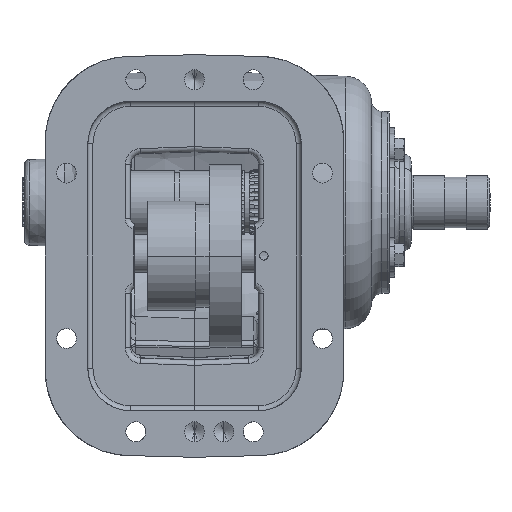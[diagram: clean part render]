
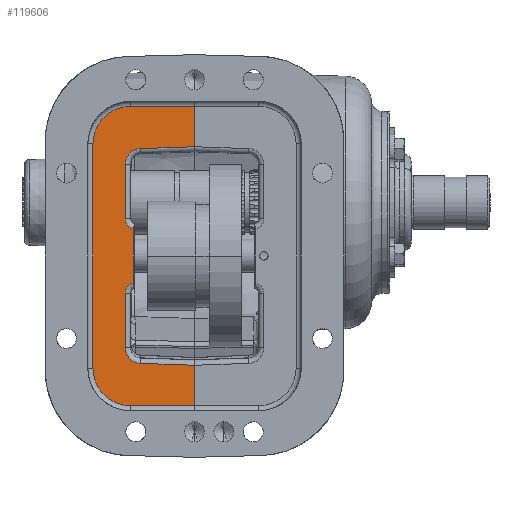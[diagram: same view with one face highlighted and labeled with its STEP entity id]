
A CAD part, front view. The second image highlights one B-rep face of the part: STEP entity #119606.
In plain terms, the highlighted planar face has unit normal (0, -1, 0).
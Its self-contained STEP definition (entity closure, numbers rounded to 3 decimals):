
#8965 = CARTESIAN_POINT ( 'NONE',  ( -31.951, -151.106, -126.172 ) ) ;
#8969 = CARTESIAN_POINT ( 'NONE',  ( 0.127, -151.106, -127.292 ) ) ;
#8971 = CARTESIAN_POINT ( 'NONE',  ( -41.021, -151.106, -116.779 ) ) ;
#8973 = CARTESIAN_POINT ( 'NONE',  ( -41.021, -151.106, -84.428 ) ) ;
#8990 = CARTESIAN_POINT ( 'NONE',  ( -36.195, -151.106, -78.466 ) ) ;
#8996 = CARTESIAN_POINT ( 'NONE',  ( -36.195, -151.106, -46.066 ) ) ;
#10473 = LINE ( 'NONE', #27801, #10477 ) ;
#10477 = VECTOR ( 'NONE', #27798, 1000. ) ;
#10481 = CIRCLE ( 'NONE', #129291, 9.398 ) ;
#10487 = LINE ( 'NONE', #27832, #10493 ) ;
#10493 = VECTOR ( 'NONE', #27830, 1000. ) ;
#10498 = CIRCLE ( 'NONE', #129309, 6.096 ) ;
#10506 = LINE ( 'NONE', #27870, #10509 ) ;
#10509 = VECTOR ( 'NONE', #27866, 1000. ) ;
#10513 = CIRCLE ( 'NONE', #129337, 6.096 ) ;
#10519 = LINE ( 'NONE', #27907, #10525 ) ;
#10525 = VECTOR ( 'NONE', #27905, 1000. ) ;
#10529 = CIRCLE ( 'NONE', #129353, 9.398 ) ;
#10534 = LINE ( 'NONE', #27931, #10541 ) ;
#10541 = VECTOR ( 'NONE', #27944, 1000. ) ;
#11099 = DIRECTION ( 'NONE',  ( 1., 0., 0. ) ) ;
#11100 = CARTESIAN_POINT ( 'NONE',  ( -37.973, -151.106, -128.941 ) ) ;
#11101 = DIRECTION ( 'NONE',  ( 0., -1., 0. ) ) ;
#11102 = DIRECTION ( 'NONE',  ( 0., 0., 1. ) ) ;
#11103 = CARTESIAN_POINT ( 'NONE',  ( 0.127, -151.106, -151.293 ) ) ;
#11110 = CARTESIAN_POINT ( 'NONE',  ( -60.325, -151.106, -128.941 ) ) ;
#11116 = DIRECTION ( 'NONE',  ( 0., 0., -1. ) ) ;
#11129 = CARTESIAN_POINT ( 'NONE',  ( -37.973, -151.106, 4.409 ) ) ;
#11130 = DIRECTION ( 'NONE',  ( 0., -1., 0. ) ) ;
#11131 = DIRECTION ( 'NONE',  ( 0., 0., 1. ) ) ;
#11142 = CARTESIAN_POINT ( 'NONE',  ( -37.973, -151.106, 26.761 ) ) ;
#11148 = DIRECTION ( 'NONE',  ( -1., 0., 0. ) ) ;
#12042 = CIRCLE ( 'NONE', #129427, 22.352 ) ;
#12047 = LINE ( 'NONE', #11103, #12049 ) ;
#12049 = VECTOR ( 'NONE', #11099, 1000. ) ;
#12056 = LINE ( 'NONE', #11110, #12064 ) ;
#12064 = VECTOR ( 'NONE', #11116, 1000. ) ;
#12077 = CIRCLE ( 'NONE', #129441, 22.352 ) ;
#12090 = LINE ( 'NONE', #11142, #12099 ) ;
#12099 = VECTOR ( 'NONE', #11148, 1000. ) ;
#13541 = LINE ( 'NONE', #113356, #13548 ) ;
#13545 = LINE ( 'NONE', #113358, #13554 ) ;
#13548 = VECTOR ( 'NONE', #113357, 1000. ) ;
#13554 = VECTOR ( 'NONE', #113359, 1000. ) ;
#19468 = CARTESIAN_POINT ( 'NONE',  ( -88.773, -151.106, 55.209 ) ) ;
#19475 = PLANE ( 'NONE',  #124255 ) ;
#19477 = DIRECTION ( 'NONE',  ( 0., 1., 0. ) ) ;
#19478 = DIRECTION ( 'NONE',  ( 0., 0., 1. ) ) ;
#27798 = DIRECTION ( 'NONE',  ( -0.999, 0., 0.035 ) ) ;
#27801 = CARTESIAN_POINT ( 'NONE',  ( -31.951, -151.106, -126.172 ) ) ;
#27819 = CARTESIAN_POINT ( 'NONE',  ( -31.623, -151.106, -116.779 ) ) ;
#27820 = DIRECTION ( 'NONE',  ( 0., 1., 0. ) ) ;
#27821 = DIRECTION ( 'NONE',  ( 0., 0., 1. ) ) ;
#27830 = DIRECTION ( 'NONE',  ( 0., 0., 1. ) ) ;
#27832 = CARTESIAN_POINT ( 'NONE',  ( -41.021, -151.106, -84.428 ) ) ;
#27853 = CARTESIAN_POINT ( 'NONE',  ( -34.925, -151.106, -84.428 ) ) ;
#27854 = DIRECTION ( 'NONE',  ( 0., 1., 0. ) ) ;
#27855 = DIRECTION ( 'NONE',  ( 0., 0., 1. ) ) ;
#27866 = DIRECTION ( 'NONE',  ( 0., 0., 1. ) ) ;
#27870 = CARTESIAN_POINT ( 'NONE',  ( -36.195, -151.106, -46.066 ) ) ;
#27897 = CARTESIAN_POINT ( 'NONE',  ( -34.925, -151.106, -40.104 ) ) ;
#27898 = DIRECTION ( 'NONE',  ( 0., 1., 0. ) ) ;
#27899 = DIRECTION ( 'NONE',  ( 0., 0., 1. ) ) ;
#27905 = DIRECTION ( 'NONE',  ( 0., 0., 1. ) ) ;
#27907 = CARTESIAN_POINT ( 'NONE',  ( -41.021, -151.106, -7.753 ) ) ;
#27927 = CARTESIAN_POINT ( 'NONE',  ( -31.623, -151.106, -7.753 ) ) ;
#27928 = DIRECTION ( 'NONE',  ( 0., 1., 0. ) ) ;
#27929 = DIRECTION ( 'NONE',  ( 0., 0., 1. ) ) ;
#27931 = CARTESIAN_POINT ( 'NONE',  ( 0.021, -151.106, 2.756 ) ) ;
#27944 = DIRECTION ( 'NONE',  ( 0.999, 0., 0.035 ) ) ;
#42385 = EDGE_LOOP ( 'NONE', ( #49415, #49414, #49413, #49412, #49411, #49410, #49409, #49408, #49407, #49406, #49405, #49404, #49403, #49402, #49401, #49400 ) ) ;
#49400 = ORIENTED_EDGE ( 'NONE', *, *, #121531, .T. ) ;
#49401 = ORIENTED_EDGE ( 'NONE', *, *, #121529, .T. ) ;
#49402 = ORIENTED_EDGE ( 'NONE', *, *, #121535, .T. ) ;
#49403 = ORIENTED_EDGE ( 'NONE', *, *, #121542, .T. ) ;
#49404 = ORIENTED_EDGE ( 'NONE', *, *, #121548, .T. ) ;
#49405 = ORIENTED_EDGE ( 'NONE', *, *, #122345, .F. ) ;
#49406 = ORIENTED_EDGE ( 'NONE', *, *, #121464, .T. ) ;
#49407 = ORIENTED_EDGE ( 'NONE', *, *, #121457, .T. ) ;
#49408 = ORIENTED_EDGE ( 'NONE', *, *, #121450, .T. ) ;
#49409 = ORIENTED_EDGE ( 'NONE', *, *, #121445, .T. ) ;
#49410 = ORIENTED_EDGE ( 'NONE', *, *, #121437, .T. ) ;
#49411 = ORIENTED_EDGE ( 'NONE', *, *, #121429, .T. ) ;
#49412 = ORIENTED_EDGE ( 'NONE', *, *, #121423, .T. ) ;
#49413 = ORIENTED_EDGE ( 'NONE', *, *, #121417, .T. ) ;
#49414 = ORIENTED_EDGE ( 'NONE', *, *, #121411, .T. ) ;
#49415 = ORIENTED_EDGE ( 'NONE', *, *, #122344, .F. ) ;
#66593 = VERTEX_POINT ( 'NONE', #8965 ) ;
#66597 = VERTEX_POINT ( 'NONE', #8969 ) ;
#66599 = VERTEX_POINT ( 'NONE', #8971 ) ;
#66601 = VERTEX_POINT ( 'NONE', #8973 ) ;
#66619 = VERTEX_POINT ( 'NONE', #8990 ) ;
#66625 = VERTEX_POINT ( 'NONE', #8996 ) ;
#66629 = VERTEX_POINT ( 'NONE', #101671 ) ;
#66636 = VERTEX_POINT ( 'NONE', #101674 ) ;
#66638 = VERTEX_POINT ( 'NONE', #101675 ) ;
#66655 = VERTEX_POINT ( 'NONE', #101683 ) ;
#66707 = VERTEX_POINT ( 'NONE', #101707 ) ;
#66710 = VERTEX_POINT ( 'NONE', #101708 ) ;
#66714 = VERTEX_POINT ( 'NONE', #101710 ) ;
#66720 = VERTEX_POINT ( 'NONE', #101713 ) ;
#66729 = VERTEX_POINT ( 'NONE', #101717 ) ;
#66738 = VERTEX_POINT ( 'NONE', #101721 ) ;
#94383 = FACE_OUTER_BOUND ( 'NONE', #42385, .T. ) ;
#101671 = CARTESIAN_POINT ( 'NONE',  ( -41.021, -151.106, -7.753 ) ) ;
#101674 = CARTESIAN_POINT ( 'NONE',  ( -41.021, -151.106, -40.104 ) ) ;
#101675 = CARTESIAN_POINT ( 'NONE',  ( -31.951, -151.106, 1.64 ) ) ;
#101683 = CARTESIAN_POINT ( 'NONE',  ( 0.127, -151.106, 2.76 ) ) ;
#101707 = CARTESIAN_POINT ( 'NONE',  ( -60.325, -151.106, -128.941 ) ) ;
#101708 = CARTESIAN_POINT ( 'NONE',  ( 0.127, -151.106, -151.293 ) ) ;
#101710 = CARTESIAN_POINT ( 'NONE',  ( -37.973, -151.106, -151.293 ) ) ;
#101713 = CARTESIAN_POINT ( 'NONE',  ( -60.325, -151.106, 4.409 ) ) ;
#101717 = CARTESIAN_POINT ( 'NONE',  ( -37.973, -151.106, 26.761 ) ) ;
#101721 = CARTESIAN_POINT ( 'NONE',  ( 0.127, -151.106, 26.761 ) ) ;
#113356 = CARTESIAN_POINT ( 'NONE',  ( 0.127, -151.106, 55.209 ) ) ;
#113357 = DIRECTION ( 'NONE',  ( 0., 0., -1. ) ) ;
#113358 = CARTESIAN_POINT ( 'NONE',  ( 0.127, -151.106, 55.209 ) ) ;
#113359 = DIRECTION ( 'NONE',  ( 0., 0., -1. ) ) ;
#119606 = ADVANCED_FACE ( 'NONE', ( #94383 ), #19475, .F. ) ;
#121411 = EDGE_CURVE ( 'NONE', #66597, #66593, #10473, .T. ) ;
#121417 = EDGE_CURVE ( 'NONE', #66593, #66599, #10481, .T. ) ;
#121423 = EDGE_CURVE ( 'NONE', #66599, #66601, #10487, .T. ) ;
#121429 = EDGE_CURVE ( 'NONE', #66601, #66619, #10498, .T. ) ;
#121437 = EDGE_CURVE ( 'NONE', #66619, #66625, #10506, .T. ) ;
#121445 = EDGE_CURVE ( 'NONE', #66625, #66636, #10513, .T. ) ;
#121450 = EDGE_CURVE ( 'NONE', #66636, #66629, #10519, .T. ) ;
#121457 = EDGE_CURVE ( 'NONE', #66629, #66638, #10529, .T. ) ;
#121464 = EDGE_CURVE ( 'NONE', #66638, #66655, #10534, .T. ) ;
#121529 = EDGE_CURVE ( 'NONE', #66707, #66714, #12042, .T. ) ;
#121531 = EDGE_CURVE ( 'NONE', #66714, #66710, #12047, .T. ) ;
#121535 = EDGE_CURVE ( 'NONE', #66720, #66707, #12056, .T. ) ;
#121542 = EDGE_CURVE ( 'NONE', #66729, #66720, #12077, .T. ) ;
#121548 = EDGE_CURVE ( 'NONE', #66738, #66729, #12090, .T. ) ;
#122344 = EDGE_CURVE ( 'NONE', #66597, #66710, #13541, .T. ) ;
#122345 = EDGE_CURVE ( 'NONE', #66738, #66655, #13545, .T. ) ;
#124255 = AXIS2_PLACEMENT_3D ( 'NONE', #19468, #19477, #19478 ) ;
#129291 = AXIS2_PLACEMENT_3D ( 'NONE', #27819, #27820, #27821 ) ;
#129309 = AXIS2_PLACEMENT_3D ( 'NONE', #27853, #27854, #27855 ) ;
#129337 = AXIS2_PLACEMENT_3D ( 'NONE', #27897, #27898, #27899 ) ;
#129353 = AXIS2_PLACEMENT_3D ( 'NONE', #27927, #27928, #27929 ) ;
#129427 = AXIS2_PLACEMENT_3D ( 'NONE', #11100, #11101, #11102 ) ;
#129441 = AXIS2_PLACEMENT_3D ( 'NONE', #11129, #11130, #11131 ) ;
